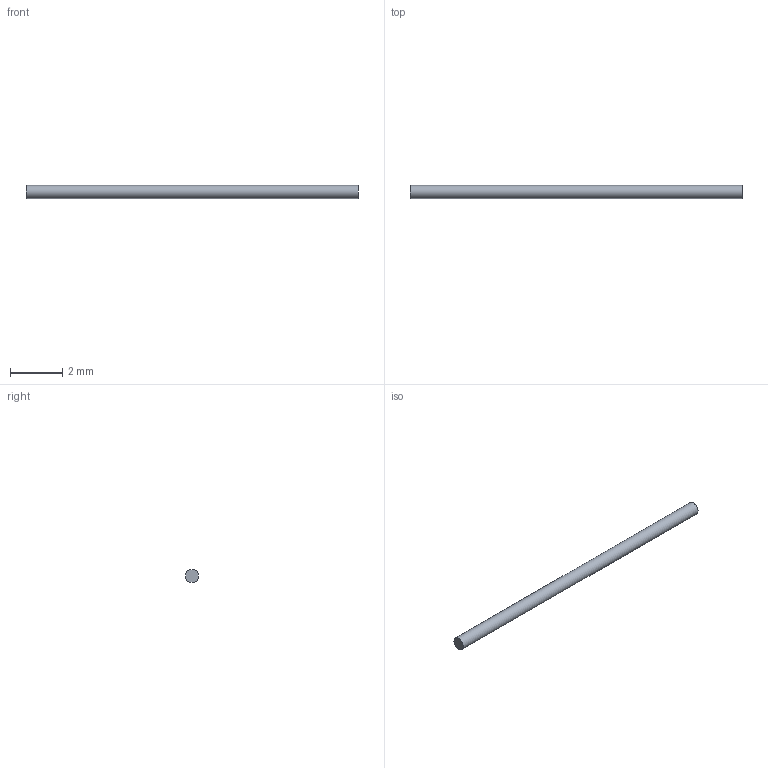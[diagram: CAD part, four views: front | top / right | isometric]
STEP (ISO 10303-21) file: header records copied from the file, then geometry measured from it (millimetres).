
FILE_DESCRIPTION(('FreeCAD Model'),'2;1');
FILE_NAME('Open CASCADE Shape Model','2026-04-07T19:07:43',('FreeCAD'),( 'FreeCAD'),'Open CASCADE STEP processor 7.8','FreeCAD','Unknown');
FILE_SCHEMA(('AUTOMOTIVE_DESIGN { 1 0 10303 214 1 1 1 1 }'));
Length unit declared in the file: millimetre
Products named in the file (1): Open CASCADE STEP translator 7.8 20
Bounding box: 12.7 x 0.5 x 0.5 mm (x, y, z)
Volume: 2.5 mm3; surface area: 20.3 mm2
Topology: 1 solids, 1 shells, 3 faces, 3 edges, 2 vertices
Faces by surface type: plane 2, cylinder 1
Full cylindrical faces by diameter (mm): 0.5 x1
Entity records: 69 total; most frequent: DIRECTION 13, CARTESIAN_POINT 9, AXIS2_PLACEMENT_3D 6, ORIENTED_EDGE 6, ADVANCED_FACE 3, FACE_BOUND 3, EDGE_LOOP 3, EDGE_CURVE 3
